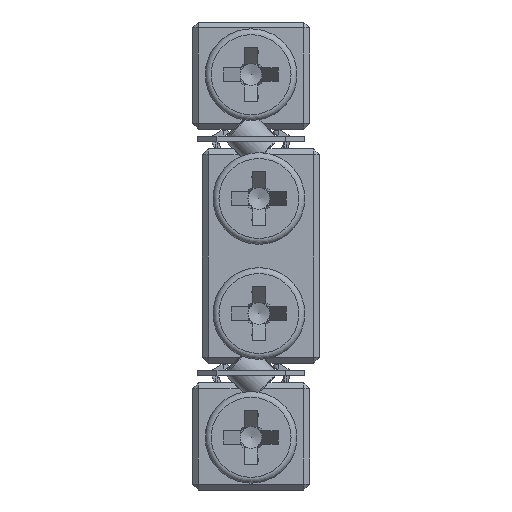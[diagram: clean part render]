
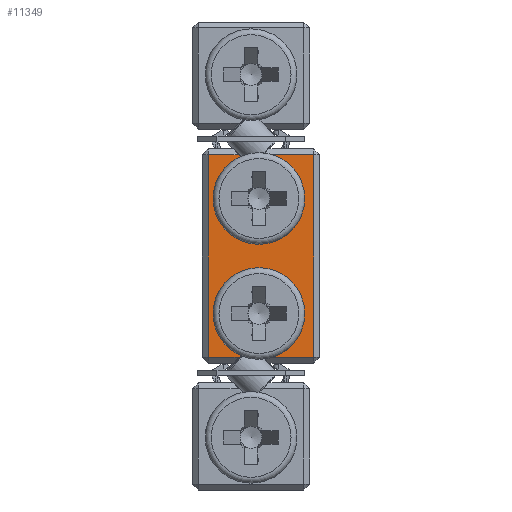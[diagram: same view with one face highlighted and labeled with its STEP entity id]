
A CAD part, left-side view. The second image highlights one B-rep face of the part: STEP entity #11349.
In plain terms, the highlighted planar face has unit normal (-1, 0, 0).
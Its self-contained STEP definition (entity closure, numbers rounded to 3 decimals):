
#326 = CARTESIAN_POINT ( 'NONE',  ( -82.5, 6., -5.5 ) ) ;
#523 = DIRECTION ( 'NONE',  ( 0., 0.707, -0.707 ) ) ;
#812 = CARTESIAN_POINT ( 'NONE',  ( -82.5, 6., -5.2 ) ) ;
#1611 = DIRECTION ( 'NONE',  ( 0., 0.707, 0.707 ) ) ;
#1950 = ORIENTED_EDGE ( 'NONE', *, *, #35054, .T. ) ;
#1991 = CARTESIAN_POINT ( 'NONE',  ( -82.5, 5.7, -5.2 ) ) ;
#2014 = DIRECTION ( 'NONE',  ( 0., 1., 0. ) ) ;
#2317 = DIRECTION ( 'NONE',  ( 0., -1., 0. ) ) ;
#2962 = CARTESIAN_POINT ( 'NONE',  ( -82.5, 2.894, 5.191 ) ) ;
#5146 = EDGE_CURVE ( 'NONE', #49979, #37521, #30845, .T. ) ;
#5315 = EDGE_CURVE ( 'NONE', #5464, #49979, #49695, .T. ) ;
#5464 = VERTEX_POINT ( 'NONE', #22669 ) ;
#5728 = CARTESIAN_POINT ( 'NONE',  ( -82.5, 6., 5.2 ) ) ;
#5874 = LINE ( 'NONE', #6150, #34744 ) ;
#6150 = CARTESIAN_POINT ( 'NONE',  ( -82.5, 5.7, -5.5 ) ) ;
#6642 = ORIENTED_EDGE ( 'NONE', *, *, #23399, .T. ) ;
#6867 = VECTOR ( 'NONE', #10053, 1000. ) ;
#7353 = EDGE_CURVE ( 'NONE', #14811, #23366, #38889, .T. ) ;
#7379 = EDGE_CURVE ( 'NONE', #14811, #50690, #51445, .T. ) ;
#7481 = CARTESIAN_POINT ( 'NONE',  ( -82.5, 5.207, -6.292 ) ) ;
#7554 = EDGE_CURVE ( 'NONE', #23366, #24873, #16454, .T. ) ;
#8175 = CARTESIAN_POINT ( 'NONE',  ( -82.5, 2.885, 5.2 ) ) ;
#9369 = DIRECTION ( 'NONE',  ( 1., 0., 0. ) ) ;
#9581 = VERTEX_POINT ( 'NONE', #1991 ) ;
#10053 = DIRECTION ( 'NONE',  ( 0., 0.707, 0.707 ) ) ;
#11293 = CARTESIAN_POINT ( 'NONE',  ( -82.5, 6., 5.2 ) ) ;
#11311 = EDGE_CURVE ( 'NONE', #24873, #15427, #48380, .T. ) ;
#11349 = ADVANCED_FACE ( 'NONE', ( #29411 ), #37694, .F. ) ;
#11432 = ORIENTED_EDGE ( 'NONE', *, *, #11311, .T. ) ;
#12055 = AXIS2_PLACEMENT_3D ( 'NONE', #34463, #21648, #21908 ) ;
#12404 = EDGE_LOOP ( 'NONE', ( #29408, #6642, #49935, #22657, #1950, #45568, #18129, #23804, #42802, #37239, #41514, #11432 ) ) ;
#12867 = DIRECTION ( 'NONE',  ( 0., 0., -1. ) ) ;
#13846 = VECTOR ( 'NONE', #23769, 1000. ) ;
#14429 = CARTESIAN_POINT ( 'NONE',  ( -82.5, 2.885, -5.2 ) ) ;
#14811 = VERTEX_POINT ( 'NONE', #14429 ) ;
#14871 = CARTESIAN_POINT ( 'NONE',  ( -82.5, 4.292, -3.792 ) ) ;
#14977 = DIRECTION ( 'NONE',  ( 1., 0., 0. ) ) ;
#15427 = VERTEX_POINT ( 'NONE', #8175 ) ;
#16454 = LINE ( 'NONE', #32726, #33328 ) ;
#17289 = CARTESIAN_POINT ( 'NONE',  ( -82.5, 4.115, 5.2 ) ) ;
#17388 = DIRECTION ( 'NONE',  ( 0., 0., -1. ) ) ;
#18129 = ORIENTED_EDGE ( 'NONE', *, *, #51788, .F. ) ;
#21648 = DIRECTION ( 'NONE',  ( 1., 0., 0. ) ) ;
#21908 = DIRECTION ( 'NONE',  ( 0., 0., 1. ) ) ;
#22646 = CARTESIAN_POINT ( 'NONE',  ( -82.5, 0.3, 5.2 ) ) ;
#22657 = ORIENTED_EDGE ( 'NONE', *, *, #5146, .T. ) ;
#22669 = CARTESIAN_POINT ( 'NONE',  ( -82.5, 3.949, 5.034 ) ) ;
#23133 = CARTESIAN_POINT ( 'NONE',  ( -82.5, 6., -5.2 ) ) ;
#23366 = VERTEX_POINT ( 'NONE', #46483 ) ;
#23399 = EDGE_CURVE ( 'NONE', #38400, #5464, #29682, .T. ) ;
#23769 = DIRECTION ( 'NONE',  ( 0., 0.707, -0.707 ) ) ;
#23804 = ORIENTED_EDGE ( 'NONE', *, *, #50707, .T. ) ;
#24873 = VERTEX_POINT ( 'NONE', #22646 ) ;
#26622 = CARTESIAN_POINT ( 'NONE',  ( -82.5, 5.7, 5.2 ) ) ;
#26985 = DIRECTION ( 'NONE',  ( 0., 0., 1. ) ) ;
#27580 = DIRECTION ( 'NONE',  ( 0., 1., 0. ) ) ;
#28390 = AXIS2_PLACEMENT_3D ( 'NONE', #326, #9369, #12867 ) ;
#29118 = CARTESIAN_POINT ( 'NONE',  ( -82.5, 9.792, -1.708 ) ) ;
#29133 = DIRECTION ( 'NONE',  ( 0., -1., 0. ) ) ;
#29408 = ORIENTED_EDGE ( 'NONE', *, *, #52104, .T. ) ;
#29411 = FACE_OUTER_BOUND ( 'NONE', #12404, .T. ) ;
#29682 = CIRCLE ( 'NONE', #33935, 2.25 ) ;
#29965 = CIRCLE ( 'NONE', #12055, 2.25 ) ;
#30474 = CARTESIAN_POINT ( 'NONE',  ( -82.5, 3.1, 2.95 ) ) ;
#30845 = LINE ( 'NONE', #5728, #43270 ) ;
#32726 = CARTESIAN_POINT ( 'NONE',  ( -82.5, 0.3, -5.5 ) ) ;
#33328 = VECTOR ( 'NONE', #45281, 1000. ) ;
#33389 = CARTESIAN_POINT ( 'NONE',  ( -82.5, -0.292, 0.792 ) ) ;
#33885 = EDGE_CURVE ( 'NONE', #9581, #37199, #45429, .T. ) ;
#33935 = AXIS2_PLACEMENT_3D ( 'NONE', #30474, #14977, #26985 ) ;
#34463 = CARTESIAN_POINT ( 'NONE',  ( -82.5, 3.1, -2.95 ) ) ;
#34744 = VECTOR ( 'NONE', #17388, 1000. ) ;
#35054 = EDGE_CURVE ( 'NONE', #37521, #9581, #5874, .T. ) ;
#37199 = VERTEX_POINT ( 'NONE', #49732 ) ;
#37239 = ORIENTED_EDGE ( 'NONE', *, *, #7353, .T. ) ;
#37521 = VERTEX_POINT ( 'NONE', #26622 ) ;
#37694 = PLANE ( 'NONE',  #28390 ) ;
#37702 = VECTOR ( 'NONE', #523, 1000. ) ;
#38400 = VERTEX_POINT ( 'NONE', #2962 ) ;
#38889 = LINE ( 'NONE', #23133, #46223 ) ;
#41183 = VECTOR ( 'NONE', #27580, 1000. ) ;
#41514 = ORIENTED_EDGE ( 'NONE', *, *, #7554, .T. ) ;
#42219 = CARTESIAN_POINT ( 'NONE',  ( -82.5, 2.894, -5.191 ) ) ;
#42646 = VERTEX_POINT ( 'NONE', #46454 ) ;
#42802 = ORIENTED_EDGE ( 'NONE', *, *, #7379, .F. ) ;
#43270 = VECTOR ( 'NONE', #2014, 1000. ) ;
#44089 = LINE ( 'NONE', #7481, #13846 ) ;
#45135 = LINE ( 'NONE', #29118, #37702 ) ;
#45281 = DIRECTION ( 'NONE',  ( 0., 0., 1. ) ) ;
#45429 = LINE ( 'NONE', #812, #46611 ) ;
#45568 = ORIENTED_EDGE ( 'NONE', *, *, #33885, .T. ) ;
#46223 = VECTOR ( 'NONE', #2317, 1000. ) ;
#46454 = CARTESIAN_POINT ( 'NONE',  ( -82.5, 3.949, -5.034 ) ) ;
#46483 = CARTESIAN_POINT ( 'NONE',  ( -82.5, 0.3, -5.2 ) ) ;
#46611 = VECTOR ( 'NONE', #29133, 1000. ) ;
#48380 = LINE ( 'NONE', #11293, #41183 ) ;
#49252 = VECTOR ( 'NONE', #1611, 1000. ) ;
#49695 = LINE ( 'NONE', #33389, #49252 ) ;
#49732 = CARTESIAN_POINT ( 'NONE',  ( -82.5, 4.115, -5.2 ) ) ;
#49935 = ORIENTED_EDGE ( 'NONE', *, *, #5315, .T. ) ;
#49979 = VERTEX_POINT ( 'NONE', #17289 ) ;
#50690 = VERTEX_POINT ( 'NONE', #42219 ) ;
#50707 = EDGE_CURVE ( 'NONE', #42646, #50690, #29965, .T. ) ;
#51445 = LINE ( 'NONE', #14871, #6867 ) ;
#51788 = EDGE_CURVE ( 'NONE', #42646, #37199, #44089, .T. ) ;
#52104 = EDGE_CURVE ( 'NONE', #15427, #38400, #45135, .T. ) ;
